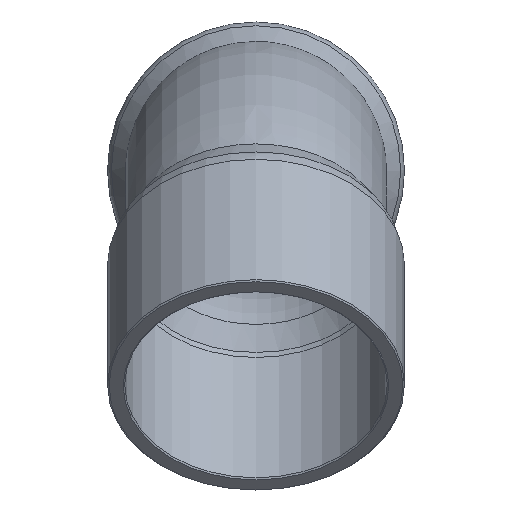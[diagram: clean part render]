
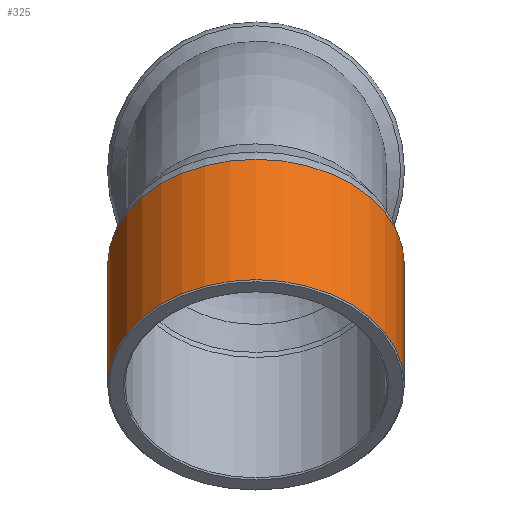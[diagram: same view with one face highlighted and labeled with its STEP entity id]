
A CAD part, top view. The second image highlights one B-rep face of the part: STEP entity #325.
In plain terms, the highlighted free-form (B-spline) face has degree [1, 2] with [2, 9] control points.
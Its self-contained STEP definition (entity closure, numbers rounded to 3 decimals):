
#273=CARTESIAN_POINT('',(0.,27.19,60.141));
#274=VERTEX_POINT('',#273);
#275=CARTESIAN_POINT('',(0.0,13.152,46.103));
#276=DIRECTION('',(0.0,-0.707,0.707));
#277=DIRECTION('',(0.0,-0.707,-0.707));
#278=AXIS2_PLACEMENT_3D('',#275,#276,#277);
#279=CIRCLE('',#278,19.852);
#280=EDGE_CURVE('',#274,#274,#279,.T.);
#285=CARTESIAN_POINT('',(0.,29.274,1.906));
#286=CARTESIAN_POINT('',(0.,-14.923,46.103));
#287=CARTESIAN_POINT('',(-19.853,29.274,1.906));
#288=CARTESIAN_POINT('',(-19.853,-14.923,46.103));
#289=CARTESIAN_POINT('',(-19.853,43.312,15.943));
#290=CARTESIAN_POINT('',(-19.853,-0.886,60.141));
#291=CARTESIAN_POINT('',(-19.852,57.35,29.981));
#292=CARTESIAN_POINT('',(-19.852,13.152,74.179));
#293=CARTESIAN_POINT('',(0.,57.35,29.981));
#294=CARTESIAN_POINT('',(0.,13.152,74.179));
#295=CARTESIAN_POINT('',(19.853,57.35,29.981));
#296=CARTESIAN_POINT('',(19.853,13.152,74.179));
#297=CARTESIAN_POINT('',(19.853,43.312,15.943));
#298=CARTESIAN_POINT('',(19.853,-0.886,60.141));
#299=CARTESIAN_POINT('',(19.852,29.274,1.906));
#300=CARTESIAN_POINT('',(19.852,-14.923,46.103));
#301=CARTESIAN_POINT('',(0.,29.274,1.906));
#302=CARTESIAN_POINT('',(0.,-14.923,46.103));
#310=(BOUNDED_SURFACE()B_SPLINE_SURFACE(1,2,((#285,#287,#289,#291,#293,#295,#297,#299,#301),(#286,#288,#290,#292,#294,#296,#298,#300,#302)),.UNSPECIFIED.,.F.,.T.,.U.)B_SPLINE_SURFACE_WITH_KNOTS((2,2),(3,2,2,2,3),(-1.579,1.569),(0.0,31.184,62.368,93.553,124.737),.UNSPECIFIED.)GEOMETRIC_REPRESENTATION_ITEM()RATIONAL_B_SPLINE_SURFACE(((1.0,0.707,1.0,0.707,1.0,0.707,1.0,0.707,1.0),(1.0,0.707,1.0,0.707,1.0,0.707,1.0,0.707,1.0)))REPRESENTATION_ITEM('')SURFACE());
#311=CARTESIAN_POINT('',(0.0,43.312,44.019));
#312=VERTEX_POINT('',#311);
#313=CARTESIAN_POINT('',(0.0,29.274,29.981));
#314=DIRECTION('',(0.0,0.707,-0.707));
#315=DIRECTION('',(0.0,0.707,0.707));
#316=AXIS2_PLACEMENT_3D('',#313,#314,#315);
#317=CIRCLE('',#316,19.852);
#318=EDGE_CURVE('',#312,#312,#317,.T.);
#319=ORIENTED_EDGE('',*,*,#318,.F.);
#320=EDGE_LOOP('',(#319));
#321=FACE_OUTER_BOUND('',#320,.T.);
#322=ORIENTED_EDGE('',*,*,#280,.F.);
#323=EDGE_LOOP('',(#322));
#324=FACE_BOUND('',#323,.T.);
#325=ADVANCED_FACE('',(#321,#324),#310,.T.);
